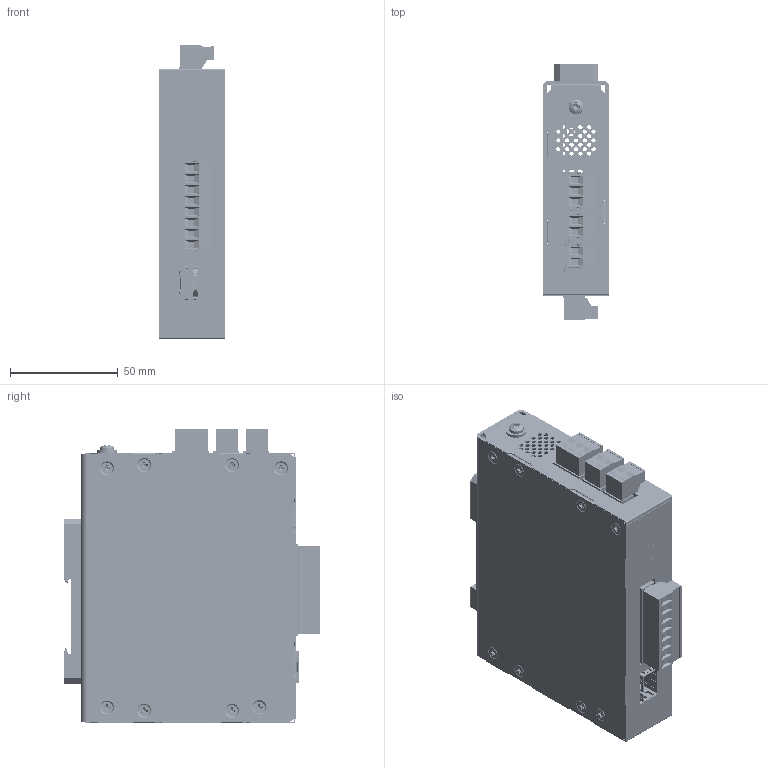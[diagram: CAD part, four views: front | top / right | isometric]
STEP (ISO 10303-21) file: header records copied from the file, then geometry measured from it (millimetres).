
FILE_DESCRIPTION(/* description */ ('STEP AP242','CAx-IF Rec.Pracs.---Representation and Presentation of Product Manufacturing Information (PMI)---4.0---2014-10-13','CAx-IF Rec.Pracs.---3D Tessellated Geometry---0.4---2014-09-14','2;1'),/* implementation_level */ '2;1');
FILE_NAME(/* name */ '67b4d1a265ace87859752c8b',/* time_stamp */ '2025-02-18T18:29:58Z',/* author */ (''),/* organization */ (''),/* preprocessor_version */ 'ST-DEVELOPER v20',/* originating_system */ 'ONSHAPE BY PTC INC, 1.193',/* authorisation */ ' ');
FILE_SCHEMA (('AP242_MANAGED_MODEL_BASED_3D_ENGINEERING_MIM_LF { 1 0 10303 442 1 1 4 }'));
Products named in the file (29): AD-179 - 4 Channel Contact Closure SFP; Flat countersunk head (82) machine screw #6-32 x 0.375; Flat countersunk head (82) machine screw #4-40 x 0.25; Front Label; DINM12-RC-Assy <1>; spring^DINM12-RC-Assy; DINM12-RC; Spring clip; Type A flat washer #6; PCB Board <1>; C-796634-2; 98952A007_Aluminum Male-Female Threaded Hex Standoff; C-796638-8; C-796638-2; Hex machine screw nut #4-40; C-796634-3; C-796638-3; U77-A1118-X00T; PCB Board; C-2-796634-7; Pan head machine screw #6-32 x 0.5; H-112 <1>; PEM SMPS-440; PEM SMPS-632; 1; H-105 Rear Housing <1>; 95185A130_Zinc-Plated Steel Press-Fit Nut for Sheet Metal; Part 1
Assembly tree (61 placements, depth 3):
  AD-179 - 4 Channel Contact Closure SFP
    Flat countersunk head (82) machine screw #6-32 x 0.375  x2
    Flat countersunk head (82) machine screw #4-40 x 0.25  x14
    Front Label
    DINM12-RC-Assy <1>
      spring^DINM12-RC-Assy
      DINM12-RC
      spring^DINM12-RC-Assy
      Spring clip
    Type A flat washer #6
    PCB Board <1>
      C-796634-2  x2
      98952A007_Aluminum Male-Female Threaded Hex Standoff  x4
      C-796638-8
      C-796638-2  x2
      Hex machine screw nut #4-40  x4
      C-796634-3
      C-796638-3
      U77-A1118-X00T
      PCB Board
      C-2-796634-7
    Pan head machine screw #6-32 x 0.5
    H-112 <1>
      PEM SMPS-440  x10
      PEM SMPS-632
      1
    H-105 Rear Housing <1>
      95185A130_Zinc-Plated Steel Press-Fit Nut for Sheet Metal  x3
      Part 1
Bounding box: 30.48 x 118.86 x 136.03 mm (x, y, z)
Volume: 95497.2 mm3; surface area: 133952.3 mm2
Topology: 56 solids, 92 shells, 5584 faces, 15443 edges, 10225 vertices
Faces by surface type: plane 3683, cylinder 1235, cone 330, bspline 288, torus 41, sphere 7
Full cylindrical faces by diameter (mm): 2 x14, 2.032 x157, 2.156 x14, 2.345 x4, 2.642 x1, 2.845 x14, 3.251 x18, 3.44 x14, 3.505 x3, 3.81 x1, 3.962 x1, 4 x25, 4.191 x10, 4.216 x10, 4.724 x1, 4.763 x4, 4.826 x3, 5.588 x10, 6.401 x1, 6.858 x1, 7.112 x3, 7.5 x1, 9 x2, 9.525 x1
Entity records: 114146 total; most frequent: CARTESIAN_POINT 29015, ORIENTED_EDGE 17342, DIRECTION 16994, EDGE_CURVE 8673, VERTEX_POINT 5885, AXIS2_PLACEMENT_3D 5704, LINE 5586, VECTOR 5586
